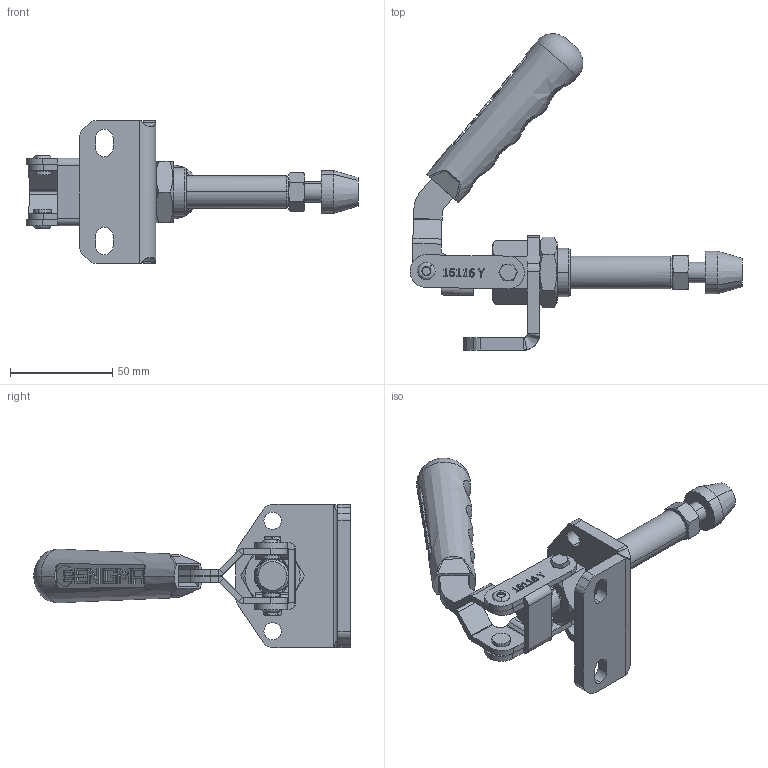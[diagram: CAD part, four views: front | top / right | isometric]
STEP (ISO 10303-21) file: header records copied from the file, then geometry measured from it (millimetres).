
FILE_DESCRIPTION (( 'STEP AP203' ), '1' );
FILE_NAME ('16116_Y.STEP', '2022-11-28T08:39:57', ( '' ), ( '' ), 'SwSTEP 2.0', 'SolidWorks 2023', '' );
FILE_SCHEMA (( 'CONFIG_CONTROL_DESIGN' ));
Length unit declared in the file: millimetre
Products named in the file (15): 1605_S6_Flans_Varsayılan; 1605_TozKeçeliAltıgenGovde_Varsayılan; 1610_Kademeli Pim Uzun_Varsayılan; 1604_Pim_6x10_Varsayılan; 1610_Mil_Varsayılan; Aynalama1605_Hareket Kolu_Varsayılan; M10 Somun_Varsayılan; 1605_Hareket Kolu_Varsayılan; C95_T(YENİ_TUTAMAK)_Varsayılan; KASTAS-K52-16X20_5X3_6-4_8_Varsayılan; 16116_Y; M24x1_5x8 Somun_Varsayılan; M5x6x10_Varsayılan; 1605_Mafsal_Varsayılan; Baskı M10_Varsayılan
Assembly tree (17 placements, depth 2):
  16116_Y
    1605_TozKeçeliAltıgenGovde_Varsayılan
    KASTAS-K52-16X20_5X3_6-4_8_Varsayılan  x2
    1610_Mil_Varsayılan
    1605_Hareket Kolu_Varsayılan
    1605_Mafsal_Varsayılan
    1605_S6_Flans_Varsayılan
    M24x1_5x8 Somun_Varsayılan
    Baskı M10_Varsayılan
    M10 Somun_Varsayılan
    M5x6x10_Varsayılan  x2
    1604_Pim_6x10_Varsayılan  x2
    1610_Kademeli Pim Uzun_Varsayılan
    Aynalama1605_Hareket Kolu_Varsayılan
    C95_T(YENİ_TUTAMAK)_Varsayılan
Bounding box: 162.49 x 154.85 x 70 mm (x, y, z)
Volume: 130306.6 mm3; surface area: 65429.3 mm2
Topology: 17 solids, 17 shells, 903 faces, 2234 edges, 1409 vertices
Faces by surface type: plane 435, cylinder 192, bspline 136, cone 114, torus 24, sphere 2
Entity records: 35319 total; most frequent: CARTESIAN_POINT 15438, ORIENTED_EDGE 3960, DIRECTION 3422, EDGE_CURVE 1980, VERTEX_POINT 1256, VECTOR 1150, LINE 1150, AXIS2_PLACEMENT_3D 1136
